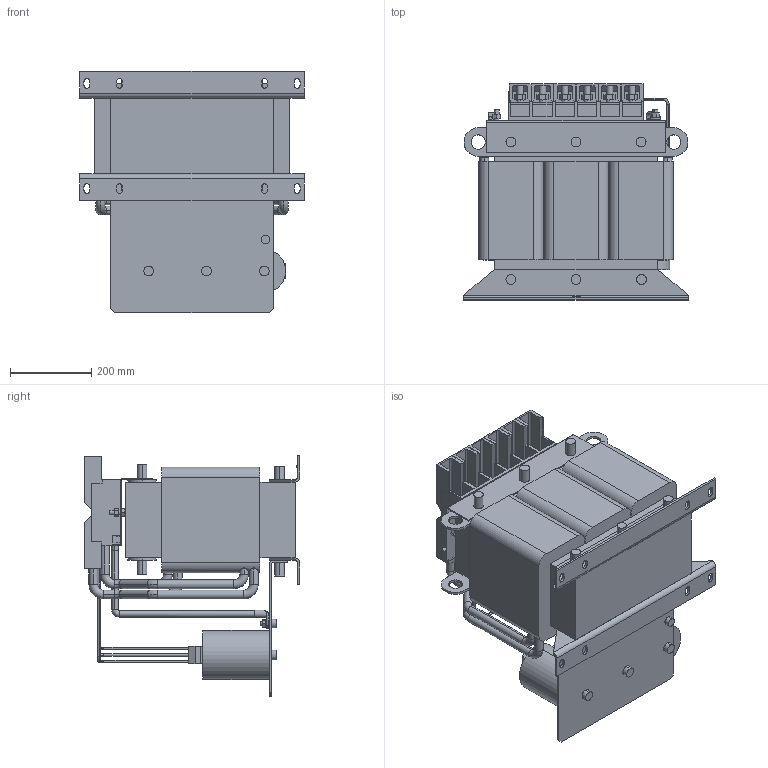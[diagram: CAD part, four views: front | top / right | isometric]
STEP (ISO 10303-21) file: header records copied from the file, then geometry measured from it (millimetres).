
FILE_DESCRIPTION (( 'STEP AP214' ), '1' );
FILE_NAME ('00Z1GX4-0029.STEP', '2022-11-21T14:56:34', ( '' ), ( '' ), 'SwSTEP 2.0', 'SolidWorks 2022', '' );
FILE_SCHEMA (( 'AUTOMOTIVE_DESIGN' ));
Length unit declared in the file: centimetre
Products named in the file (1): 00Z1GX4-0029
Bounding box: 552 x 530.33 x 593 mm (x, y, z)
Volume: 56974526.9 mm3; surface area: 2693495.3 mm2
Topology: 1 solids, 2 shells, 1005 faces, 2677 edges, 1718 vertices
Faces by surface type: plane 536, cylinder 309, torus 114, bspline 44, cone 2
Entity records: 43349 total; most frequent: CARTESIAN_POINT 17782, ORIENTED_EDGE 5354, DIRECTION 5225, EDGE_CURVE 2677, AXIS2_PLACEMENT_3D 1803, VERTEX_POINT 1718, VECTOR 1619, LINE 1619
